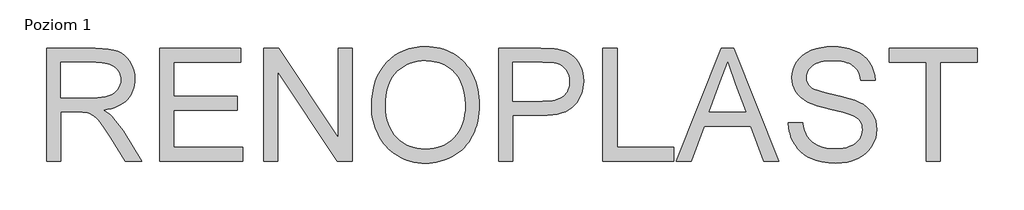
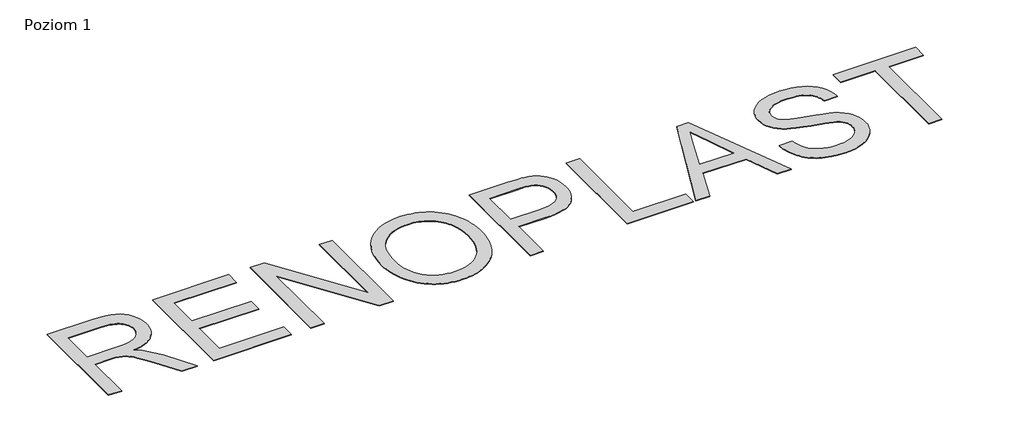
# One storey, part 4 of 4: 1 proxy.
"""IFC4 building model written with IfcOpenShell, lengths in millimetres."""

import ifcopenshell
import ifcopenshell.guid

model = None  # the IFC model being written
_history = None  # IfcOwnerHistory: only IFC2X3 demands one
_inside = {}  # id of a spatial element -> (the spatial element, [elements in it])
_under = {}  # id of a project, library or spatial element -> (it, [spatial elements below it])
_declared = {}  # id of a project -> (the project, [libraries it declares])
_typed = {}  # id of a type object -> (the type object, [elements of that type])
_made_of = {}  # id of a material, layer set ... -> (it, [elements and type objects made of it])


def new_model(schema):
    """Start an empty IFC model of exactly this schema.

    Asked for "IFC4X3", IfcOpenShell would pick the latest addendum, in which some entities
    have other attributes; the version numbers below select the first issue.
    IFC2X3 requires an IfcOwnerHistory on every rooted entity: one is made here for all.
    """
    global model, _history
    if schema == "IFC4X3":
        model = ifcopenshell.file(schema_version=(4, 3, 0, 0))
    else:
        model = ifcopenshell.file(schema=schema)
    _inside.clear()
    _under.clear()
    _declared.clear()
    _typed.clear()
    _made_of.clear()
    _history = None
    if model.schema == "IFC2X3":
        org = make("IfcOrganization", Name="unknown")
        user = make(
            "IfcPersonAndOrganization",
            ThePerson=make("IfcPerson", FamilyName="unknown"),
            TheOrganization=org,
        )
        app = make(
            "IfcApplication",
            ApplicationDeveloper=org,
            Version="unknown",
            ApplicationFullName="unknown",
            ApplicationIdentifier="unknown",
        )
        _history = make(
            "IfcOwnerHistory",
            OwningUser=user,
            OwningApplication=app,
            ChangeAction="ADDED",
            CreationDate=0,
        )
    return model


def make(cls, **values):
    """One entity of the class cls with the attributes given. An attribute that is None is left unset."""
    return model.create_entity(
        cls, **{name: value for name, value in values.items() if value is not None}
    )


def rooted(cls, **values):
    """An entity with a GlobalId (a new one), such as an element, a storey or a relation."""
    return make(cls, GlobalId=ifcopenshell.guid.new(), OwnerHistory=_history, **values)


def si_unit(unit_type, name, prefix=None):
    """IfcSIUnit, for example si_unit("LENGTHUNIT", "METRE", prefix="MILLI")."""
    return make("IfcSIUnit", UnitType=unit_type, Prefix=prefix, Name=name)


def assignment(units):
    """IfcUnitAssignment: the units of a project."""
    return None if units is None else make("IfcUnitAssignment", Units=units)


def point(xyz):
    """IfcCartesianPoint."""
    return None if xyz is None else make("IfcCartesianPoint", Coordinates=xyz)


def direction(xyz):
    """IfcDirection."""
    return None if xyz is None else make("IfcDirection", DirectionRatios=xyz)


def frame(location, z_axis=None, x_axis=None):
    """IfcAxis2Placement3D, a coordinate frame: its origin and axes. An axis left out is left unset."""
    return make(
        "IfcAxis2Placement3D",
        Location=point(location),
        Axis=direction(z_axis),
        RefDirection=direction(x_axis),
    )


def origin():
    """The frame at (0, 0, 0) with its axes left unset."""
    return frame((0.0, 0.0, 0.0))


def origin_with_axes():
    """The frame at (0, 0, 0) with the z axis (0, 0, 1) and the x axis (1, 0, 0) written out."""
    return frame((0.0, 0.0, 0.0), z_axis=(0.0, 0.0, 1.0), x_axis=(1.0, 0.0, 0.0))


def place(relative_to, where):
    """IfcLocalPlacement: puts the frame where relative to a parent placement (None: the world)."""
    return make(
        "IfcLocalPlacement", PlacementRelTo=relative_to, RelativePlacement=where
    )


def context(
    kind, dimensions, precision=None, world=None, true_north=None, identifier=None
):
    """IfcGeometricRepresentationContext, for example the 3D "Model" context."""
    return make(
        "IfcGeometricRepresentationContext",
        ContextIdentifier=identifier,
        ContextType=kind,
        CoordinateSpaceDimension=dimensions,
        Precision=precision,
        WorldCoordinateSystem=world,
        TrueNorth=true_north,
    )


def project(units=None, contexts=None):
    """IfcProject with its units and contexts."""
    return rooted(
        "IfcProject",
        Name="project",
        RepresentationContexts=contexts,
        UnitsInContext=assignment(units),
    )


def spatial(cls, under=None, at=None, **own):
    """A site, building, storey or space (cls), placed at a placement, below another one or the project."""
    s = rooted(cls, ObjectPlacement=at, **own)
    if under is not None:
        _under.setdefault(under.id(), (under, []))[1].append(s)
    return s


def polyline(points):
    """IfcPolyline through the points."""
    return make("IfcPolyline", Points=[point(p) for p in points])


def outline(outer, holes=None, kind="AREA"):
    """IfcArbitraryClosedProfileDef: a profile drawn as a closed curve; with holes, ...WithVoids."""
    if holes is None:
        return make("IfcArbitraryClosedProfileDef", ProfileType=kind, OuterCurve=outer)
    return make(
        "IfcArbitraryProfileDefWithVoids",
        ProfileType=kind,
        OuterCurve=outer,
        InnerCurves=holes,
    )


def extrude(swept, where, along, depth):
    """IfcExtrudedAreaSolid: the profile swept, set in the frame where, extruded along a direction by depth."""
    return make(
        "IfcExtrudedAreaSolid",
        SweptArea=swept,
        Position=where,
        ExtrudedDirection=direction(along),
        Depth=depth,
    )


def shape(context_of_items, identifier, shape_type, items):
    """IfcShapeRepresentation: the items that make up one representation, for example the "Body"."""
    return make(
        "IfcShapeRepresentation",
        ContextOfItems=context_of_items,
        RepresentationIdentifier=identifier,
        RepresentationType=shape_type,
        Items=items,
    )


def made_of(thing, what):
    """Note that an element or type object is made of a material, layer set ...; save() writes the relation."""
    if what is not None:
        _made_of.setdefault(what.id(), (what, []))[1].append(thing)
    return thing


def element(
    cls,
    number,
    at=None,
    inside=None,
    cuts=None,
    type_object=None,
    material=None,
    context=None,
    identifier="Body",
    shape_type=None,
    held_by="IfcProductDefinitionShape",
    body=None,
    shapes=None,
    **own,
):
    """One element of the class cls, such as IfcWall. Its Tag is "e" and its number.

    at: its placement. inside: the storey or other place that contains it. cuts: it is an
    opening in that element (IfcRelVoidsElement). A single representation is given by context,
    identifier, shape_type and body (its items); several are given by shapes. held_by: the class
    of the entity that holds the representations. save() writes the other relations.
    """
    e = rooted(cls, Tag="e%d" % number, ObjectPlacement=at, **own)
    if body is not None:
        shapes = [shape(context, identifier, shape_type, body)]
    if shapes is not None:
        e.Representation = make(held_by, Representations=shapes)
    if inside is not None:
        _inside.setdefault(inside.id(), (inside, []))[1].append(e)
    if cuts is not None:
        rooted(
            "IfcRelVoidsElement", RelatingBuildingElement=cuts, RelatedOpeningElement=e
        )
    if type_object is not None:
        _typed.setdefault(type_object.id(), (type_object, []))[1].append(e)
    return made_of(e, material)


def aggregate(whole, parts):
    """IfcRelAggregates: a whole, such as a stair, and the parts it consists of."""
    return rooted("IfcRelAggregates", RelatingObject=whole, RelatedObjects=parts)


def save(model, path):
    """Write the relations noted so far, then the file.

    IfcRelAggregates (storeys below a building ...), IfcRelContainedInSpatialStructure (elements
    in a storey), IfcRelDefinesByType, IfcRelAssociatesMaterial and IfcRelDeclares: one each for
    every whole, place, type object, material and project.
    """
    for whole, parts in _under.values():
        aggregate(whole, parts)
    for where, things in _inside.values():
        rooted(
            "IfcRelContainedInSpatialStructure",
            RelatedElements=things,
            RelatingStructure=where,
        )
    for kind, things in _typed.values():
        rooted("IfcRelDefinesByType", RelatedObjects=things, RelatingType=kind)
    for what, things in _made_of.values():
        rooted("IfcRelAssociatesMaterial", RelatedObjects=things, RelatingMaterial=what)
    for by, libraries in _declared.values():
        rooted("IfcRelDeclares", RelatingContext=by, RelatedDefinitions=libraries)
    model.write(path)


model = new_model("IFC4")

# Units and contexts
model_context = context("Model", 3, world=origin())
ifc_project = project(units=[si_unit("LENGTHUNIT", "METRE", prefix="MILLI")], contexts=[model_context])

# Site, building, storey
site = spatial("IfcSite", under=ifc_project)
building = spatial("IfcBuilding", under=site)
storey = spatial("IfcBuildingStorey", under=building, Name="Poziom 1", Elevation=0.0)

# Proxy
placement = place(None, origin())
element("IfcBuildingElementProxy", 1, Name="2000 mm Arial", ObjectType="2000 mm Arial", at=placement, inside=storey, context=model_context, shape_type="SweptSolid", body=[
    extrude(outline(polyline([(-111509.3065899, 68632.7906592), (-111509.3065899, 70590.4377181), (-110665.7404135, 70590.4377181), (-110544.6570036, 70587.1369368), (-110439.0170679, 70577.2345931), (-110348.8206065, 70560.7306868), (-110274.0676194, 70537.6252181), (-110210.4118289, 70506.1408431), (-110153.5069576, 70464.5002181), (-110103.3530054, 70412.7033431), (-110059.9499723, 70350.7502181), (-110024.9258455, 70281.9714956), (-109999.908612, 70209.6978284), (-109984.8982719, 70133.9292162), (-109979.8948252, 70054.6656592), (-109981.9671483, 70003.3616611), (-109988.1841175, 69954.1187842), (-109998.5457329, 69906.9370287), (-110013.0519944, 69861.8163945), (-110031.702902, 69818.7568817), (-110054.4984558, 69777.7584901), (-110081.4386557, 69738.8212199), (-110112.5235017, 69701.945071), (-110147.9396897, 69667.7349377), (-110187.8739153, 69636.7957144), (-110232.3261786, 69609.127401), (-110281.2964797, 69584.7299975), (-110334.7848183, 69563.6035039), (-110392.7911947, 69545.7479203), (-110455.3156088, 69531.1632466), (-110522.3580605, 69519.8494828), (-110441.705487, 69467.1564681), (-110409.7132995, 69441.0788026), (-110383.2771782, 69415.1803651), (-110283.0290164, 69296.2924975), (-110184.9315899, 69163.3053651), (-109858.4977664, 68632.7906592), (-110142.8727664, 68632.7906592), (-110397.6154135, 69038.5627181), (-110499.5363694, 69193.4156592), (-110581.6227664, 69307.1656592), (-110616.7663786, 69350.0459442), (-110650.0280973, 69385.4882695), (-110681.4079227, 69413.4926353), (-110710.9058547, 69434.0590416), (-110768.5575091, 69462.5562842), (-110827.2845311, 69480.6583063), (-110884.517987, 69487.1105122), (-110969.2330605, 69489.2612475), (-111264.6007076, 69489.2612475), (-111264.6007076, 68632.7906592), (-111509.3065899, 68632.7906592)]), holes=[polyline([(-111264.6007076, 69733.9671298), (-110716.8801194, 69733.9671298), (-110633.8229043, 69736.1328008), (-110559.5777297, 69742.6298136), (-110494.1445955, 69753.4581684), (-110437.5235017, 69768.6178651), (-110388.4449172, 69788.5420379), (-110345.6393105, 69813.663821), (-110309.1066819, 69843.9832144), (-110278.8470311, 69879.5002181), (-110255.1142646, 69918.4673596), (-110238.1622885, 69959.1371666), (-110227.9911028, 70001.509639), (-110224.6007076, 70045.5847769), (-110226.217493, 70077.5993679), (-110231.0678491, 70108.1651997), (-110239.1517761, 70137.2822723), (-110250.4692738, 70164.9505857), (-110265.0203422, 70191.1701399), (-110282.8049815, 70215.940935), (-110303.8231915, 70239.2629708), (-110328.0749723, 70261.1362475), (-110355.8216979, 70280.9633385), (-110387.3247425, 70298.1468173), (-110422.584106, 70312.6866841), (-110461.5997885, 70324.5829386), (-110504.3717899, 70333.8355811), (-110550.9001102, 70340.4446114), (-110655.2257076, 70345.7318357), (-111264.6007076, 70345.7318357), (-111264.6007076, 69733.9671298)])]), origin_with_axes(), (0.0, 0.0, 1.0), 10.0),
    extrude(outline(polyline([(-109551.6595311, 68632.7906592), (-109551.6595311, 70590.4377181), (-108144.6007076, 70590.4377181), (-108144.6007076, 70345.7318357), (-109306.9536488, 70345.7318357), (-109306.9536488, 69764.5553651), (-108205.7771782, 69764.5553651), (-108205.7771782, 69519.8494828), (-109306.9536488, 69519.8494828), (-109306.9536488, 68877.4965416), (-108114.0124723, 68877.4965416), (-108114.0124723, 68632.7906592), (-109551.6595311, 68632.7906592)])), origin_with_axes(), (0.0, 0.0, 1.0), 10.0),
    extrude(outline(polyline([(-107746.9536488, 68632.7906592), (-107746.9536488, 70590.4377181), (-107485.0418841, 70590.4377181), (-106462.2477664, 69039.5186004), (-106462.2477664, 70590.4377181), (-106217.5418841, 70590.4377181), (-106217.5418841, 68632.7906592), (-106479.4536488, 68632.7906592), (-107502.2477664, 70184.1877181), (-107502.2477664, 68632.7906592), (-107746.9536488, 68632.7906592)])), origin_with_axes(), (0.0, 0.0, 1.0), 10.0),
    extrude(outline(polyline([(-105881.0712958, 69585.8053651), (-105876.9938602, 69703.9091105), (-105864.7615532, 69815.4262291), (-105844.3743749, 69920.3567208), (-105815.8323252, 70018.7005857), (-105779.1354043, 70110.4578238), (-105734.283612, 70195.628435), (-105681.2769484, 70274.2124193), (-105620.1154135, 70346.2097769), (-105552.5091405, 70410.6198182), (-105480.1682627, 70466.4418541), (-105403.0927802, 70513.6758844), (-105321.2826929, 70552.3219092), (-105234.7380008, 70582.3799285), (-105143.4587039, 70603.8499423), (-105047.4448023, 70616.7319506), (-104946.6962958, 70621.0259534), (-104880.0160339, 70619.009639), (-104814.9936304, 70612.960696), (-104751.6290854, 70602.8791243), (-104689.9223988, 70588.7649239), (-104629.8735706, 70570.6180949), (-104571.482601, 70548.4386372), (-104514.7494898, 70522.2265508), (-104459.674237, 70491.9818357), (-104407.0409649, 70458.1301583), (-104357.6337958, 70421.097185), (-104311.4527297, 70380.8829157), (-104268.4977664, 70337.4873504), (-104228.7689061, 70290.9104892), (-104192.2661488, 70241.152332), (-104158.9894944, 70188.2128789), (-104128.9389429, 70132.0921298), (-104102.2787866, 70073.4099148), (-104079.1733179, 70012.7860636), (-104059.6225366, 69950.2205765), (-104043.6264429, 69885.7134534), (-104031.1850366, 69819.2646942), (-104022.2983179, 69750.8742989), (-104016.9662866, 69680.5422677), (-104015.1889429, 69608.2686004), (-104017.0596345, 69535.0465186), (-104022.6717094, 69463.7810085), (-104032.0251676, 69394.4720701), (-104045.1200091, 69327.1197034), (-104061.9562338, 69261.7239083), (-104082.5338418, 69198.284685), (-104106.8528331, 69136.8020333), (-104134.9132076, 69077.2759534), (-104166.4050504, 69020.505503), (-104201.0184466, 68967.2897401), (-104238.753396, 68917.6286648), (-104279.6098988, 68871.5222769), (-104323.5879548, 68828.9705765), (-104370.6875642, 68789.9735636), (-104420.9087269, 68754.5312383), (-104474.2514429, 68722.6436004), (-104529.6963533, 68694.4151997), (-104586.2240991, 68669.9505857), (-104643.8346805, 68649.2497585), (-104702.5280973, 68632.3127181), (-104762.3043496, 68619.1394644), (-104823.1634374, 68609.7299975), (-104885.1053606, 68604.0843173), (-104948.1301194, 68602.2024239), (-105016.0425734, 68604.2822148), (-105082.1328767, 68610.5215875), (-105146.4010293, 68620.9205421), (-105208.8470311, 68635.4790784), (-105269.4708822, 68654.1971965), (-105328.2725826, 68677.0748964), (-105385.2521322, 68704.1121781), (-105440.4095311, 68735.3090416), (-105493.0129319, 68770.1016657), (-105542.330487, 68807.9262291), (-105588.3621966, 68848.7827318), (-105631.1080605, 68892.6711739), (-105670.5680789, 68939.5915554), (-105706.7422517, 68989.5438761), (-105739.6305789, 69042.5281363), (-105769.2330605, 69098.5443357), (-105795.4451469, 69156.4984373), (-105818.1622885, 69215.2964037), (-105837.3844852, 69274.9382351), (-105853.111737, 69335.4239313), (-105865.344044, 69396.7534924), (-105874.0814061, 69458.9269184), (-105879.3238234, 69521.9442093), (-105881.0712958, 69585.8053651)]), holes=[polyline([(-105636.3654135, 69583.4156592), (-105633.3073367, 69500.0223918), (-105624.1331065, 69421.1845011), (-105608.8427228, 69346.9019874), (-105587.4361855, 69277.1748504), (-105559.9134948, 69212.0030903), (-105526.2746506, 69151.386707), (-105486.5196529, 69095.3257006), (-105440.6485017, 69043.820071), (-105390.162231, 68997.6688761), (-105336.5618749, 68957.6711739), (-105279.8474332, 68923.8269644), (-105220.0189061, 68896.1362475), (-105157.0762935, 68874.5990232), (-105091.0195955, 68859.2152916), (-105021.8488119, 68849.9850526), (-104949.5639429, 68846.9083063), (-104875.9572678, 68850.0149239), (-104805.6887131, 68859.3347769), (-104738.7582788, 68874.8678651), (-104675.1659649, 68896.6141886), (-104614.9117715, 68924.5737475), (-104557.9956984, 68958.7465416), (-104504.4177457, 68999.132571), (-104454.1779135, 69045.7318357), (-104408.6428147, 69098.043991), (-104369.1790624, 69155.5686923), (-104335.7866566, 69218.3059396), (-104308.4655973, 69286.2557328), (-104287.2158845, 69359.4180719), (-104272.0375183, 69437.792957), (-104262.9304985, 69521.3803881), (-104259.8948252, 69610.1803651), (-104265.0924355, 69722.167957), (-104280.6852664, 69826.8072034), (-104306.6733179, 69924.0981041), (-104343.0565899, 70014.0406592), (-104365.045618, 70055.9613279), (-104389.4318197, 70095.4549515), (-104416.2151952, 70132.5215301), (-104445.3957444, 70167.1610636), (-104476.9734672, 70199.3735522), (-104510.9483638, 70229.1589956), (-104547.3204342, 70256.5173941), (-104586.0896782, 70281.4487475), (-104626.6736051, 70303.6842139), (-104668.4897241, 70322.9549515), (-104711.5380353, 70339.2609602), (-104755.8185385, 70352.6022401), (-104848.0761212, 70370.3906133), (-104945.2624723, 70376.320071), (-105014.7655743, 70373.4636257), (-105081.8042922, 70364.8942898), (-105146.3786258, 70350.6120632), (-105208.4885752, 70330.616946), (-105268.1341405, 70304.9089382), (-105325.3153216, 70273.4880398), (-105380.0321184, 70236.3542507), (-105432.2845311, 70193.507571), (-105480.1159879, 70143.9846505), (-105521.5699172, 70086.822139), (-105556.6463188, 70022.0200365), (-105585.3451929, 69949.5783431), (-105607.6665394, 69869.4970586), (-105623.6103583, 69781.7761831), (-105633.1766497, 69686.4157167), (-105636.3654135, 69583.4156592)])]), origin_with_axes(), (0.0, 0.0, 1.0), 10.0),
    extrude(outline(polyline([(-103678.7183547, 68632.7906592), (-103678.7183547, 70590.4377181), (-102953.2036488, 70590.4377181), (-102784.2514429, 70585.7777916), (-102716.8019944, 70579.9528835), (-102660.7036488, 70571.7980122), (-102592.6119668, 70557.1162567), (-102530.2854502, 70536.9680489), (-102473.7240991, 70511.353389), (-102422.9279135, 70480.2722769), (-102377.3592094, 70443.0824791), (-102336.4803032, 70399.1417622), (-102300.2911947, 70348.4501261), (-102268.7918841, 70291.007571), (-102243.2817738, 70228.7109258), (-102225.0602664, 70163.4570195), (-102214.127362, 70095.2458523), (-102210.4830605, 70024.0774239), (-102212.9437108, 69962.7889359), (-102220.3256616, 69903.9050894), (-102232.628913, 69847.4258844), (-102249.8534649, 69793.351321), (-102271.9993174, 69741.6813991), (-102299.0664705, 69692.4161188), (-102331.054924, 69645.55548), (-102367.9646782, 69601.0994828), (-102411.2967669, 69560.5491611), (-102462.5522241, 69525.4055489), (-102521.73105, 69495.6686464), (-102588.8332444, 69471.3384534), (-102663.8588073, 69452.4149699), (-102746.8077388, 69438.898196), (-102837.6800389, 69430.7881317), (-102936.4757076, 69428.0847769), (-103434.0124723, 69428.0847769), (-103434.0124723, 68632.7906592), (-103678.7183547, 68632.7906592)]), holes=[polyline([(-103434.0124723, 69672.7906592), (-102922.1374723, 69672.7906592), (-102804.4444576, 69678.4064681), (-102752.498226, 69685.4262291), (-102705.1521782, 69695.2538945), (-102662.4063142, 69707.8894644), (-102624.2606341, 69723.3329386), (-102590.7151377, 69741.5843173), (-102561.7698252, 69762.6436004), (-102536.7899309, 69786.2494138), (-102515.1406892, 69812.1403835), (-102496.8221001, 69840.3165094), (-102481.8341635, 69870.7777916), (-102470.1768795, 69903.52423), (-102461.850248, 69938.5558247), (-102456.8542692, 69975.8725756), (-102455.1889429, 70015.4744828), (-102459.1170219, 70072.5884534), (-102470.9012591, 70125.4009534), (-102490.5416543, 70173.9119828), (-102518.0382076, 70218.1215416), (-102551.9272241, 70256.5958063), (-102590.7450091, 70287.9009534), (-102634.4915624, 70312.0369828), (-102683.1668841, 70329.0038945), (-102723.3736855, 70336.3223688), (-102777.5602664, 70341.5498504), (-102927.8727664, 70345.7318357), (-103434.0124723, 70345.7318357), (-103434.0124723, 69672.7906592)])]), origin_with_axes(), (0.0, 0.0, 1.0), 10.0),
    extrude(outline(polyline([(-101874.0124723, 68632.7906592), (-101874.0124723, 70590.4377181), (-101629.3065899, 70590.4377181), (-101629.3065899, 68877.4965416), (-100650.4830605, 68877.4965416), (-100650.4830605, 68632.7906592), (-101874.0124723, 68632.7906592)])), origin_with_axes(), (0.0, 0.0, 1.0), 10.0),
    extrude(outline(polyline([(-100603.1668841, 68632.7906592), (-99821.7330605, 70590.4377181), (-99613.3507076, 70590.4377181), (-98831.9168841, 68632.7906592), (-99090.4830605, 68632.7906592), (-99314.6374723, 69244.5553651), (-100120.924237, 69244.5553651), (-100344.6007076, 68632.7906592), (-100603.1668841, 68632.7906592)]), holes=[polyline([(-100031.0712958, 69489.2612475), (-99404.0124723, 69489.2612475), (-99580.3727664, 69970.5480122), (-99717.5418841, 70345.7318357), (-99839.4168841, 70012.6068357), (-100031.0712958, 69489.2612475)])]), origin_with_axes(), (0.0, 0.0, 1.0), 10.0),
    extrude(outline(polyline([(-98662.2477664, 69305.7318357), (-98417.5418841, 69305.7318357), (-98406.3401377, 69234.5036648), (-98389.4628399, 69169.9367989), (-98366.9099907, 69112.0312383), (-98338.6815899, 69060.7869828), (-98303.3438142, 69015.1734717), (-98259.4628399, 68974.1601445), (-98207.0386672, 68937.7470011), (-98146.0712958, 68905.9340416), (-98078.8010752, 68880.1102824), (-98007.4683547, 68861.6647401), (-97932.0731341, 68850.5974148), (-97852.6154135, 68846.9083063), (-97782.3281892, 68849.701275), (-97716.2826929, 68858.0801813), (-97654.4789245, 68872.045025), (-97596.9168841, 68891.5958063), (-97545.0154594, 68916.0305489), (-97500.1935385, 68944.6472769), (-97462.4511212, 68977.4459901), (-97431.7882076, 69014.4266886), (-97408.0554411, 69053.9912567), (-97391.1034649, 69094.5415784), (-97380.9322793, 69136.0776537), (-97377.5418841, 69178.5994828), (-97380.0809466, 69220.9420839), (-97387.6981341, 69260.5066519), (-97400.3934466, 69297.2931868), (-97418.1668841, 69331.3016886), (-97443.7964797, 69362.7113853), (-97480.0602664, 69391.7015048), (-97526.9582444, 69418.2720471), (-97584.4904135, 69442.4230122), (-97713.7137591, 69480.8375342), (-97940.7955605, 69535.8605122), (-98068.2714337, 69567.1507236), (-98174.6880238, 69597.6941519), (-98260.0453308, 69627.4907971), (-98324.3433547, 69656.5406592), (-98389.6868749, 69695.5227364), (-98446.158612, 69738.8660269), (-98493.7585661, 69786.5705306), (-98532.486737, 69838.6362475), (-98562.4924815, 69894.5254938), (-98583.9251561, 69953.7005857), (-98596.7847609, 70016.1615232), (-98601.0712958, 70081.9083063), (-98595.7691359, 70154.7794), (-98579.8626561, 70225.2309166), (-98553.3518565, 70293.2628559), (-98516.236737, 70358.8752181), (-98468.9354962, 70419.3945195), (-98411.8663326, 70472.1472769), (-98345.0292462, 70517.1334901), (-98268.424237, 70554.3531592), (-98184.6351745, 70583.5225067), (-98096.2459282, 70604.3577548), (-98003.256498, 70616.8589037), (-97905.6668841, 70621.0259534), (-97799.205487, 70616.6647401), (-97699.1962958, 70603.5811004), (-97605.6393105, 70581.7750342), (-97518.5345311, 70551.2465416), (-97439.4950091, 70512.2644644), (-97370.1337958, 70465.0976445), (-97310.4508914, 70409.746082), (-97260.4462958, 70346.2097769), (-97220.5083363, 70276.3407511), (-97191.0253399, 70201.9910269), (-97171.9973069, 70123.1606041), (-97163.424237, 70039.8494828), (-97408.1301194, 70039.8494828), (-97414.7914245, 70080.1608339), (-97424.4996047, 70117.9331225), (-97437.2546598, 70153.1663486), (-97453.0565899, 70185.8605122), (-97471.9053951, 70216.0156133), (-97493.8010752, 70243.6316519), (-97518.7436304, 70268.708628), (-97546.7330605, 70291.2465416), (-97578.0158041, 70311.18565), (-97612.8382995, 70328.4662107), (-97651.2005467, 70343.0882236), (-97693.1025458, 70355.0516886), (-97738.5442967, 70364.3566059), (-97787.5257995, 70371.0029754), (-97896.1080605, 70376.320071), (-98008.1553951, 70371.0627181), (-98058.0629089, 70364.4910269), (-98103.892987, 70355.2906592), (-98145.6456295, 70343.4616151), (-98183.3208363, 70329.0038945), (-98216.9186074, 70311.9174975), (-98246.4389429, 70292.2024239), (-98294.5317738, 70247.9629938), (-98313.4253859, 70224.2078238), (-98328.8837958, 70199.3623504), (-98340.9070036, 70173.4265738), (-98349.4950091, 70146.4004938), (-98354.6478124, 70118.2841105), (-98356.3654135, 70089.0774239), (-98351.4963877, 70039.7598688), (-98336.8893105, 69995.0424975), (-98312.5441819, 69954.92531), (-98278.4610017, 69919.4083063), (-98255.4899539, 69902.6355581), (-98224.8121047, 69885.773196), (-98140.3360017, 69851.7796298), (-98025.0326929, 69817.4276078), (-97878.9021782, 69782.7171298), (-97730.6806708, 69748.8729203), (-97609.1043841, 69717.1197034), (-97514.1733179, 69687.4574791), (-97445.8874723, 69659.8862475), (-97370.8656433, 69618.0962659), (-97306.3883914, 69571.1086739), (-97252.4557168, 69518.9234717), (-97209.0676194, 69461.5406592), (-97175.7162866, 69399.2589497), (-97151.8939061, 69332.3770563), (-97137.6004778, 69260.8949791), (-97132.8360017, 69184.8127181), (-97138.3173896, 69108.2674515), (-97154.7615532, 69033.9625342), (-97182.1684925, 68961.8979662), (-97220.5382076, 68892.0737475), (-97269.1985936, 68827.1932328), (-97327.4775458, 68769.9597769), (-97395.3750642, 68720.3733798), (-97472.8911488, 68678.4340416), (-97557.7705146, 68645.0827089), (-97647.7578767, 68621.2603284), (-97742.8532352, 68606.9669), (-97843.0565899, 68602.2024239), (-97968.2323712, 68607.3402916), (-98082.8038326, 68622.7538945), (-98186.7709741, 68648.4432328), (-98234.777925, 68665.1413026), (-98280.1337958, 68684.4083063), (-98322.9804755, 68706.2591795), (-98363.4598528, 68730.7088578), (-98401.5719277, 68757.7573412), (-98437.3167002, 68787.4046298), (-98470.6941704, 68819.6507236), (-98501.7043381, 68854.4956225), (-98530.3472035, 68891.9393265), (-98556.6227664, 68931.9818357), (-98580.2285798, 68973.9958523), (-98600.8621966, 69017.3540784), (-98618.5236166, 69062.056514), (-98633.2128399, 69108.1031592), (-98644.9298666, 69155.494014), (-98653.6746966, 69204.2290784), (-98662.2477664, 69305.7318357)])), origin_with_axes(), (0.0, 0.0, 1.0), 10.0),
    extrude(outline(polyline([(-96276.3654135, 68632.7906592), (-96276.3654135, 70345.7318357), (-96918.7183547, 70345.7318357), (-96918.7183547, 70590.4377181), (-95389.3065899, 70590.4377181), (-95389.3065899, 70345.7318357), (-96031.6595311, 70345.7318357), (-96031.6595311, 68632.7906592), (-96276.3654135, 68632.7906592)])), origin_with_axes(), (0.0, 0.0, 1.0), 10.0),
])

save(model, "model.ifc")
